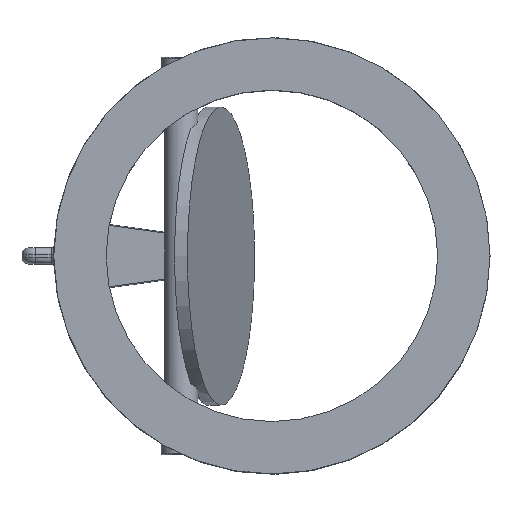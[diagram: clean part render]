
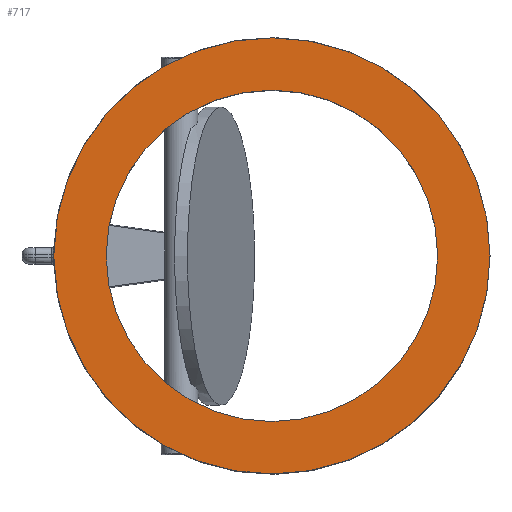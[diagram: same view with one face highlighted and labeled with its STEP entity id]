
A CAD part, top view. The second image highlights one B-rep face of the part: STEP entity #717.
In plain terms, the highlighted planar face has unit normal (0, 0, 1).
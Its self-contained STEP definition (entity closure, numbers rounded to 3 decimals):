
#717 = ADVANCED_FACE( '', ( #1509, #1510 ), #1511, .F. );
#1509 = FACE_OUTER_BOUND( '', #11588, .T. );
#1510 = FACE_BOUND( '', #11589, .T. );
#1511 = PLANE( '', #11590 );
#11588 = EDGE_LOOP( '', ( #14200, #14201 ) );
#11589 = EDGE_LOOP( '', ( #14202 ) );
#11590 = AXIS2_PLACEMENT_3D( '', #14203, #14204, #14205 );
#14200 = ORIENTED_EDGE( '', *, *, #15270, .F. );
#14201 = ORIENTED_EDGE( '', *, *, #14752, .F. );
#14202 = ORIENTED_EDGE( '', *, *, #15262, .F. );
#14203 = CARTESIAN_POINT( '', ( 0., 0., 57. ) );
#14204 = DIRECTION( '', ( 0., 0., -1. ) );
#14205 = DIRECTION( '', ( -1., 0., 0. ) );
#14752 = EDGE_CURVE( '', #15849, #15396, #15850, .T. );
#15262 = EDGE_CURVE( '', #16540, #16540, #16541, .T. );
#15270 = EDGE_CURVE( '', #15396, #15849, #16550, .T. );
#15396 = VERTEX_POINT( '', #17029 );
#15849 = VERTEX_POINT( '', #20097 );
#15850 = CIRCLE( '', #20098, 164.5 );
#16540 = VERTEX_POINT( '', #25992 );
#16541 = CIRCLE( '', #25993, 125. );
#16550 = CIRCLE( '', #26009, 164.5 );
#17029 = CARTESIAN_POINT( '', ( -164.497, -0.988, 57. ) );
#20097 = CARTESIAN_POINT( '', ( -164.497, 0.988, 57. ) );
#20098 = AXIS2_PLACEMENT_3D( '', #26166, #26167, #26168 );
#25992 = CARTESIAN_POINT( '', ( 0., -125., 57. ) );
#25993 = AXIS2_PLACEMENT_3D( '', #26291, #26292, #26293 );
#26009 = AXIS2_PLACEMENT_3D( '', #26297, #26298, #26299 );
#26166 = CARTESIAN_POINT( '', ( 0., 0., 57. ) );
#26167 = DIRECTION( '', ( 0., 0., -1. ) );
#26168 = DIRECTION( '', ( 1., 0., 0. ) );
#26291 = CARTESIAN_POINT( '', ( 0., 0., 57. ) );
#26292 = DIRECTION( '', ( 0., 0., 1. ) );
#26293 = DIRECTION( '', ( 0., -1., 0. ) );
#26297 = CARTESIAN_POINT( '', ( 0., 0., 57. ) );
#26298 = DIRECTION( '', ( 0., 0., -1. ) );
#26299 = DIRECTION( '', ( 1., 0., 0. ) );
